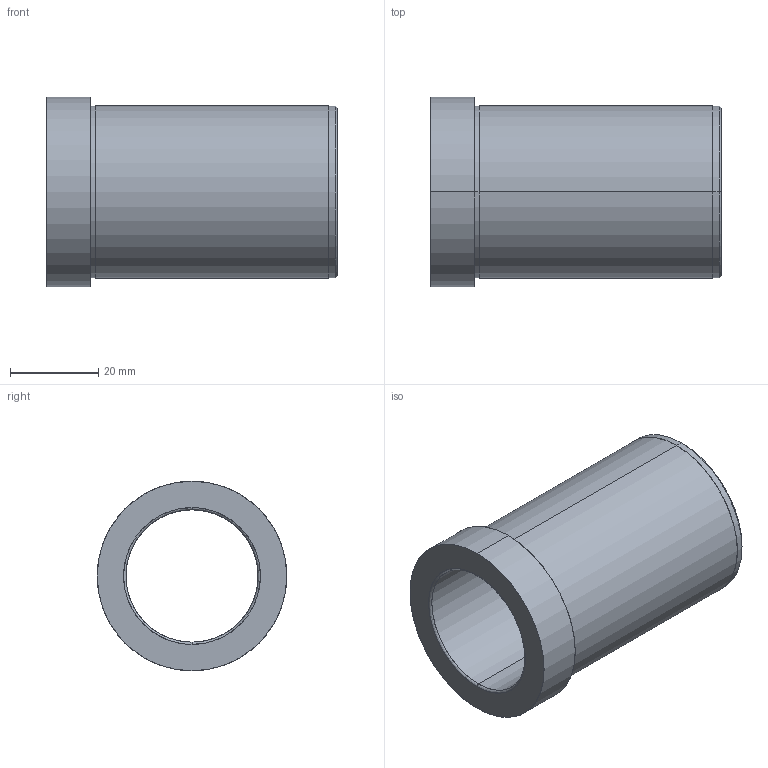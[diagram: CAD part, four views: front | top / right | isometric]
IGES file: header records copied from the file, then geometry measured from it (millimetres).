
Start section: SolidWorks IGES file using analytic representation for surfaces
Global section: file name: C:\Documents and Settings\kalite-mail\Desktop\IGS\D20\D20 - 30x66.IGS; native system: SolidWorks 2008; preprocessor: SolidWorks 2008; author: kalite-mail; date: 080617.114954; units: millimetre
Bounding box: 66 x 43 x 43 mm (x, y, z)
Surface area: 15852.5 mm2 (no closed solid volume)
Topology: 0 solids, 0 shells, 21 faces, 704 edges, 704 vertices
Faces by surface type: revolution 12, bspline 9
